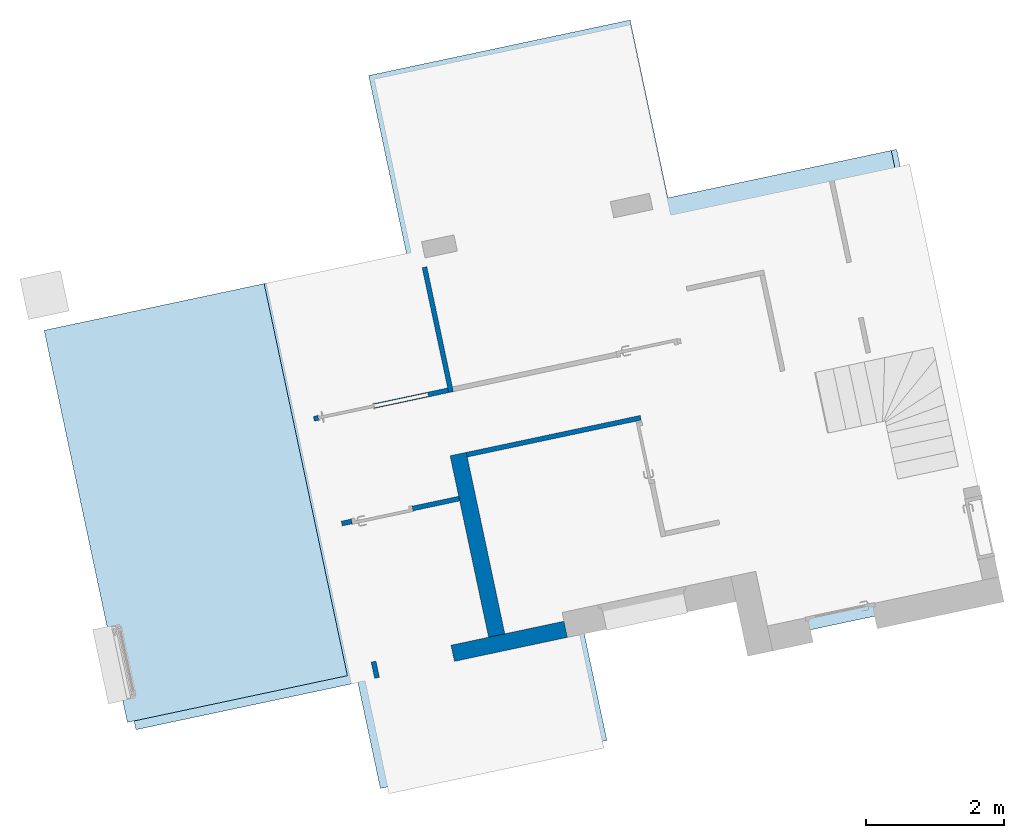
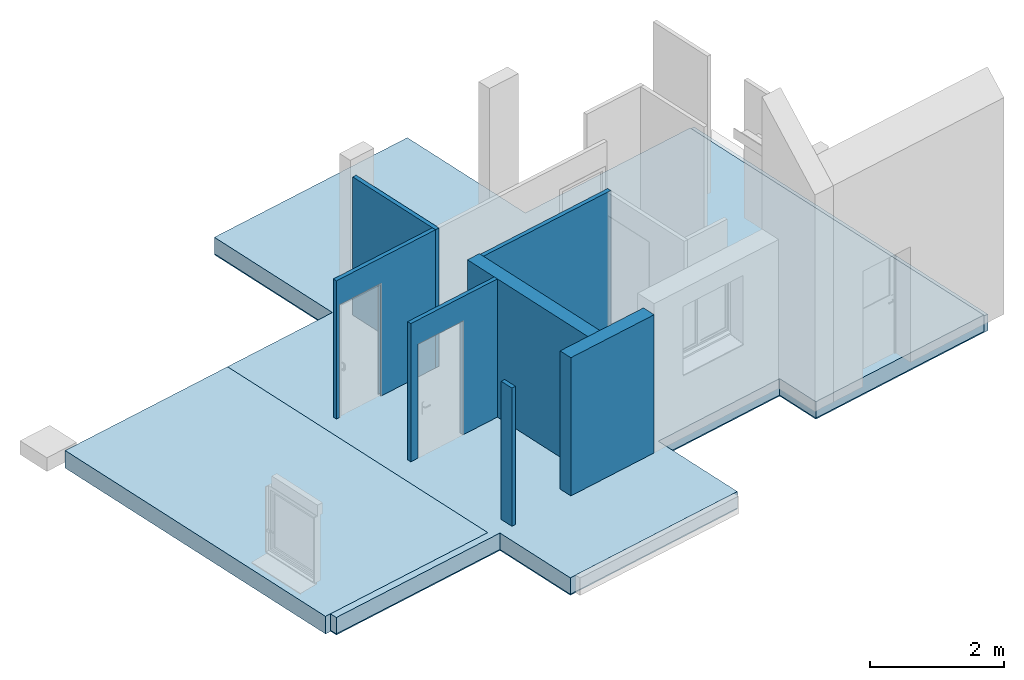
# One storey, part 1 of 11: 7 walls, 3 slabs, 4 openings.
"""IFC2X3 building model written with IfcOpenShell, lengths in centimetres."""

import ifcopenshell
import ifcopenshell.guid

model = None  # the IFC model being written
_history = None  # IfcOwnerHistory: only IFC2X3 demands one
_inside = {}  # id of a spatial element -> (the spatial element, [elements in it])
_under = {}  # id of a project, library or spatial element -> (it, [spatial elements below it])
_declared = {}  # id of a project -> (the project, [libraries it declares])
_typed = {}  # id of a type object -> (the type object, [elements of that type])
_made_of = {}  # id of a material, layer set ... -> (it, [elements and type objects made of it])


def new_model(schema):
    """Start an empty IFC model of exactly this schema.

    Asked for "IFC4X3", IfcOpenShell would pick the latest addendum, in which some entities
    have other attributes; the version numbers below select the first issue.
    IFC2X3 requires an IfcOwnerHistory on every rooted entity: one is made here for all.
    """
    global model, _history
    if schema == "IFC4X3":
        model = ifcopenshell.file(schema_version=(4, 3, 0, 0))
    else:
        model = ifcopenshell.file(schema=schema)
    _inside.clear()
    _under.clear()
    _declared.clear()
    _typed.clear()
    _made_of.clear()
    _history = None
    if model.schema == "IFC2X3":
        org = make("IfcOrganization", Name="unknown")
        user = make(
            "IfcPersonAndOrganization",
            ThePerson=make("IfcPerson", FamilyName="unknown"),
            TheOrganization=org,
        )
        app = make(
            "IfcApplication",
            ApplicationDeveloper=org,
            Version="unknown",
            ApplicationFullName="unknown",
            ApplicationIdentifier="unknown",
        )
        _history = make(
            "IfcOwnerHistory",
            OwningUser=user,
            OwningApplication=app,
            ChangeAction="ADDED",
            CreationDate=0,
        )
    return model


def make(cls, **values):
    """One entity of the class cls with the attributes given. An attribute that is None is left unset."""
    return model.create_entity(
        cls, **{name: value for name, value in values.items() if value is not None}
    )


def entity(cls, *values):
    """Any entity or typed value of the class cls, its attributes in the order of the schema. None: left unset."""
    e = model.create_entity(cls)
    for i, value in enumerate(values):
        if value is not None:
            e[i] = value
    return e


def rooted(cls, **values):
    """An entity with a GlobalId (a new one), such as an element, a storey or a relation."""
    return make(cls, GlobalId=ifcopenshell.guid.new(), OwnerHistory=_history, **values)


def si_unit(unit_type, name, prefix=None):
    """IfcSIUnit, for example si_unit("LENGTHUNIT", "METRE", prefix="MILLI")."""
    return make("IfcSIUnit", UnitType=unit_type, Prefix=prefix, Name=name)


def converted_unit(unit_type, name, factor, base, dimensions=None, offset=None):
    """IfcConversionBasedUnit, such as the inch: factor (a typed value) times the base unit."""
    return make(
        "IfcConversionBasedUnit"
        if offset is None
        else "IfcConversionBasedUnitWithOffset",
        ConversionOffset=offset,
        Dimensions=None
        if dimensions is None
        else entity("IfcDimensionalExponents", *dimensions),
        UnitType=unit_type,
        Name=name,
        ConversionFactor=make(
            "IfcMeasureWithUnit", ValueComponent=factor, UnitComponent=base
        ),
    )


def derived_unit(unit_type, elements):
    """IfcDerivedUnit: a product of units, each with its exponent."""
    return make(
        "IfcDerivedUnit",
        Elements=[
            make("IfcDerivedUnitElement", Unit=unit, Exponent=power)
            for unit, power in elements
        ],
        UnitType=unit_type,
    )


def assignment(units):
    """IfcUnitAssignment: the units of a project."""
    return None if units is None else make("IfcUnitAssignment", Units=units)


def point(xyz):
    """IfcCartesianPoint."""
    return None if xyz is None else make("IfcCartesianPoint", Coordinates=xyz)


def direction(xyz):
    """IfcDirection."""
    return None if xyz is None else make("IfcDirection", DirectionRatios=xyz)


def frame(location, z_axis=None, x_axis=None):
    """IfcAxis2Placement3D, a coordinate frame: its origin and axes. An axis left out is left unset."""
    return make(
        "IfcAxis2Placement3D",
        Location=point(location),
        Axis=direction(z_axis),
        RefDirection=direction(x_axis),
    )


def frame_2d(location, x_axis=None):
    """IfcAxis2Placement2D, a coordinate frame in the plane: its origin and x axis."""
    return make(
        "IfcAxis2Placement2D", Location=point(location), RefDirection=direction(x_axis)
    )


def origin():
    """The frame at (0, 0, 0) with its axes left unset."""
    return frame((0.0, 0.0, 0.0))


def place(relative_to, where):
    """IfcLocalPlacement: puts the frame where relative to a parent placement (None: the world)."""
    return make(
        "IfcLocalPlacement", PlacementRelTo=relative_to, RelativePlacement=where
    )


def context(
    kind, dimensions, precision=None, world=None, true_north=None, identifier=None
):
    """IfcGeometricRepresentationContext, for example the 3D "Model" context."""
    return make(
        "IfcGeometricRepresentationContext",
        ContextIdentifier=identifier,
        ContextType=kind,
        CoordinateSpaceDimension=dimensions,
        Precision=precision,
        WorldCoordinateSystem=world,
        TrueNorth=true_north,
    )


def subcontext(parent, identifier, kind, view, scale=None):
    """IfcGeometricRepresentationSubContext, for example "Body" below "Model"."""
    return make(
        "IfcGeometricRepresentationSubContext",
        ContextIdentifier=identifier,
        ContextType=kind,
        ParentContext=parent,
        TargetScale=scale,
        TargetView=view,
    )


def project(units=None, contexts=None):
    """IfcProject with its units and contexts."""
    return rooted(
        "IfcProject",
        Name="project",
        RepresentationContexts=contexts,
        UnitsInContext=assignment(units),
    )


def spatial(cls, under=None, at=None, **own):
    """A site, building, storey or space (cls), placed at a placement, below another one or the project."""
    s = rooted(cls, ObjectPlacement=at, **own)
    if under is not None:
        _under.setdefault(under.id(), (under, []))[1].append(s)
    return s


def polyline(points):
    """IfcPolyline through the points."""
    return make("IfcPolyline", Points=[point(p) for p in points])


def profile(cls, at=None, kind="AREA", **sizes):
    """A parametric profile (cls). Its sizes go by their IFC names, for example OverallWidth=200.0."""
    return make(cls, ProfileType=kind, Position=at, **sizes)


def rectangle(**sizes):
    """IfcRectangleProfileDef."""
    return profile("IfcRectangleProfileDef", **sizes)


def outline(outer, holes=None, kind="AREA"):
    """IfcArbitraryClosedProfileDef: a profile drawn as a closed curve; with holes, ...WithVoids."""
    if holes is None:
        return make("IfcArbitraryClosedProfileDef", ProfileType=kind, OuterCurve=outer)
    return make(
        "IfcArbitraryProfileDefWithVoids",
        ProfileType=kind,
        OuterCurve=outer,
        InnerCurves=holes,
    )


def extrude(swept, where, along, depth):
    """IfcExtrudedAreaSolid: the profile swept, set in the frame where, extruded along a direction by depth."""
    return make(
        "IfcExtrudedAreaSolid",
        SweptArea=swept,
        Position=where,
        ExtrudedDirection=direction(along),
        Depth=depth,
    )


def clip(a, b, op="DIFFERENCE"):
    """IfcBooleanClippingResult: the solid a cut by the half space b."""
    return make(
        "IfcBooleanClippingResult", Operator=op, FirstOperand=a, SecondOperand=b
    )


def bounded_halfspace(plane, agree, where, boundary):
    """IfcPolygonalBoundedHalfSpace: a half space limited to a polygon's prism."""
    return make(
        "IfcPolygonalBoundedHalfSpace",
        BaseSurface=make("IfcPlane", Position=plane),
        AgreementFlag=agree,
        Position=where,
        PolygonalBoundary=boundary,
    )


def faces_of(points, faces, orient=None, outer=None):
    """IfcFace entities. A face is a list of loops; a loop is a list of indices into points, from 0.

    orient and outer hold one flag for each loop. By default every Orientation is true, the
    first loop of a face is its IfcFaceOuterBound and the others are IfcFaceBound.
    """
    made = []
    for i, loops in enumerate(faces):
        bounds = []
        for j, loop in enumerate(loops):
            is_outer = j == 0 if outer is None else outer[i][j]
            bounds.append(
                make(
                    "IfcFaceOuterBound" if is_outer else "IfcFaceBound",
                    Bound=make("IfcPolyLoop", Polygon=[points[k] for k in loop]),
                    Orientation=True if orient is None else orient[i][j],
                )
            )
        made.append(make("IfcFace", Bounds=bounds))
    return made


def faceted_brep(points, faces, orient=None, outer=None, voids=None):
    """IfcFacetedBrep: a solid bounded by flat faces; with voids (closed shells), ...WithVoids."""
    shared = [point(p) for p in points]
    hull = make("IfcClosedShell", CfsFaces=faces_of(shared, faces, orient, outer))
    if voids is None:
        return make("IfcFacetedBrep", Outer=hull)
    return make(
        "IfcFacetedBrepWithVoids",
        Outer=hull,
        Voids=[
            make(cls, CfsFaces=faces_of(shared, fs, o, b)) for cls, fs, o, b in voids
        ],
    )


def shape(context_of_items, identifier, shape_type, items):
    """IfcShapeRepresentation: the items that make up one representation, for example the "Body"."""
    return make(
        "IfcShapeRepresentation",
        ContextOfItems=context_of_items,
        RepresentationIdentifier=identifier,
        RepresentationType=shape_type,
        Items=items,
    )


def material(Name=None, Category=None):
    """IfcMaterial."""
    return make("IfcMaterial", Name=Name, Category=Category)


def layer(
    of_material, thickness, ventilated=None, Name=None, Category=None, Priority=None
):
    """IfcMaterialLayer: one layer of a wall or slab, of a material (None: an air gap)."""
    return make(
        "IfcMaterialLayer",
        Material=of_material,
        LayerThickness=thickness,
        IsVentilated=ventilated,
        Name=Name,
        Category=Category,
        Priority=Priority,
    )


def layer_set(layers, Name=None):
    """IfcMaterialLayerSet."""
    return make("IfcMaterialLayerSet", MaterialLayers=layers, LayerSetName=Name)


def layer_usage(for_layer_set, set_direction, sense, offset, extent=None):
    """IfcMaterialLayerSetUsage: how a layer set lies in its element."""
    return make(
        "IfcMaterialLayerSetUsage",
        ForLayerSet=for_layer_set,
        LayerSetDirection=set_direction,
        DirectionSense=sense,
        OffsetFromReferenceLine=offset,
        ReferenceExtent=extent,
    )


def made_of(thing, what):
    """Note that an element or type object is made of a material, layer set ...; save() writes the relation."""
    if what is not None:
        _made_of.setdefault(what.id(), (what, []))[1].append(thing)
    return thing


def type_object(cls, material=None, **own):
    """A type object (cls), such as IfcWallType, which elements share."""
    return made_of(rooted(cls, **own), material)


def element(
    cls,
    number,
    at=None,
    inside=None,
    cuts=None,
    type_object=None,
    material=None,
    context=None,
    identifier="Body",
    shape_type=None,
    held_by="IfcProductDefinitionShape",
    body=None,
    shapes=None,
    **own,
):
    """One element of the class cls, such as IfcWall. Its Tag is "e" and its number.

    at: its placement. inside: the storey or other place that contains it. cuts: it is an
    opening in that element (IfcRelVoidsElement). A single representation is given by context,
    identifier, shape_type and body (its items); several are given by shapes. held_by: the class
    of the entity that holds the representations. save() writes the other relations.
    """
    e = rooted(cls, Tag="e%d" % number, ObjectPlacement=at, **own)
    if body is not None:
        shapes = [shape(context, identifier, shape_type, body)]
    if shapes is not None:
        e.Representation = make(held_by, Representations=shapes)
    if inside is not None:
        _inside.setdefault(inside.id(), (inside, []))[1].append(e)
    if cuts is not None:
        rooted(
            "IfcRelVoidsElement", RelatingBuildingElement=cuts, RelatedOpeningElement=e
        )
    if type_object is not None:
        _typed.setdefault(type_object.id(), (type_object, []))[1].append(e)
    return made_of(e, material)


def aggregate(whole, parts):
    """IfcRelAggregates: a whole, such as a stair, and the parts it consists of."""
    return rooted("IfcRelAggregates", RelatingObject=whole, RelatedObjects=parts)


def save(model, path):
    """Write the relations noted so far, then the file.

    IfcRelAggregates (storeys below a building ...), IfcRelContainedInSpatialStructure (elements
    in a storey), IfcRelDefinesByType, IfcRelAssociatesMaterial and IfcRelDeclares: one each for
    every whole, place, type object, material and project.
    """
    for whole, parts in _under.values():
        aggregate(whole, parts)
    for where, things in _inside.values():
        rooted(
            "IfcRelContainedInSpatialStructure",
            RelatedElements=things,
            RelatingStructure=where,
        )
    for kind, things in _typed.values():
        rooted("IfcRelDefinesByType", RelatedObjects=things, RelatingType=kind)
    for what, things in _made_of.values():
        rooted("IfcRelAssociatesMaterial", RelatedObjects=things, RelatingMaterial=what)
    for by, libraries in _declared.values():
        rooted("IfcRelDeclares", RelatingContext=by, RelatedDefinitions=libraries)
    model.write(path)


model = new_model("IFC2X3")

# Units and contexts
model_context = context("Model", 3, precision=0.001, world=origin(), true_north=direction((6.12303176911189e-17, 1.0)))
body_context = subcontext(model_context, "Body", "Model", "MODEL_VIEW")
ifc_project = project(units=[si_unit("LENGTHUNIT", "METRE", prefix="CENTI"), si_unit("AREAUNIT", "SQUARE_METRE"), si_unit("VOLUMEUNIT", "CUBIC_METRE"), converted_unit("PLANEANGLEUNIT", "DEGREE", entity("IfcRatioMeasure", 0.0174532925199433), si_unit("PLANEANGLEUNIT", "RADIAN"), dimensions=[0, 0, 0, 0, 0, 0, 0]), si_unit("MASSUNIT", "GRAM", prefix="KILO"), derived_unit("MASSDENSITYUNIT", [(si_unit("MASSUNIT", "GRAM", prefix="KILO"), 1), (si_unit("LENGTHUNIT", "METRE"), -3)]), derived_unit("IONCONCENTRATIONUNIT", [(si_unit("MASSUNIT", "GRAM", prefix="KILO"), 1), (si_unit("LENGTHUNIT", "METRE"), -3)]), derived_unit("MOMENTOFINERTIAUNIT", [(si_unit("LENGTHUNIT", "METRE"), 4)]), si_unit("TIMEUNIT", "SECOND"), si_unit("FREQUENCYUNIT", "HERTZ"), si_unit("THERMODYNAMICTEMPERATUREUNIT", "DEGREE_CELSIUS"), derived_unit("THERMALTRANSMITTANCEUNIT", [(si_unit("MASSUNIT", "GRAM", prefix="KILO"), 1), (si_unit("THERMODYNAMICTEMPERATUREUNIT", "KELVIN"), -1), (si_unit("TIMEUNIT", "SECOND"), -3)]), derived_unit("THERMALCONDUCTANCEUNIT", [(si_unit("MASSUNIT", "GRAM", prefix="KILO"), 1), (si_unit("THERMODYNAMICTEMPERATUREUNIT", "KELVIN"), -1), (si_unit("TIMEUNIT", "SECOND"), -3), (si_unit("LENGTHUNIT", "METRE"), 1)]), derived_unit("VOLUMETRICFLOWRATEUNIT", [(si_unit("LENGTHUNIT", "METRE"), 3), (si_unit("TIMEUNIT", "SECOND"), -1)]), derived_unit("MASSFLOWRATEUNIT", [(si_unit("MASSUNIT", "GRAM", prefix="KILO"), 1), (si_unit("TIMEUNIT", "SECOND"), -1)]), derived_unit("ROTATIONALFREQUENCYUNIT", [(si_unit("TIMEUNIT", "SECOND"), -1)]), si_unit("ELECTRICCURRENTUNIT", "AMPERE"), si_unit("ELECTRICVOLTAGEUNIT", "VOLT"), si_unit("POWERUNIT", "WATT"), si_unit("FORCEUNIT", "NEWTON", prefix="KILO"), si_unit("ILLUMINANCEUNIT", "LUX"), si_unit("LUMINOUSFLUXUNIT", "LUMEN"), si_unit("LUMINOUSINTENSITYUNIT", "CANDELA"), derived_unit("USERDEFINED", [(si_unit("MASSUNIT", "GRAM", prefix="KILO"), -1), (si_unit("LENGTHUNIT", "METRE"), -2), (si_unit("TIMEUNIT", "SECOND"), 3), (si_unit("LUMINOUSFLUXUNIT", "LUMEN"), 1)]), derived_unit("USERDEFINED", [(si_unit("MASSUNIT", "GRAM", prefix="KILO"), 1), (si_unit("TIMEUNIT", "SECOND"), -3), (si_unit("LENGTHUNIT", "METRE"), 3), (si_unit("ELECTRICCURRENTUNIT", "AMPERE"), -2)]), derived_unit("SOUNDPOWERUNIT", [(si_unit("MASSUNIT", "GRAM", prefix="KILO"), 1), (si_unit("TIMEUNIT", "SECOND"), -3), (si_unit("LENGTHUNIT", "METRE"), 2)]), derived_unit("SOUNDPRESSUREUNIT", [(si_unit("MASSUNIT", "GRAM", prefix="KILO"), 1), (si_unit("LENGTHUNIT", "METRE"), -1), (si_unit("TIMEUNIT", "SECOND"), -2)]), derived_unit("LINEARVELOCITYUNIT", [(si_unit("LENGTHUNIT", "METRE"), 1), (si_unit("TIMEUNIT", "SECOND"), -1)]), si_unit("PRESSUREUNIT", "PASCAL"), derived_unit("USERDEFINED", [(si_unit("MASSUNIT", "GRAM", prefix="KILO"), 1), (si_unit("LENGTHUNIT", "METRE"), -2), (si_unit("TIMEUNIT", "SECOND"), -2)]), derived_unit("LINEARFORCEUNIT", [(si_unit("MASSUNIT", "GRAM", prefix="KILO"), 1), (si_unit("TIMEUNIT", "SECOND"), -2)]), derived_unit("PLANARFORCEUNIT", [(si_unit("MASSUNIT", "GRAM", prefix="KILO"), 1), (si_unit("LENGTHUNIT", "METRE"), -1), (si_unit("TIMEUNIT", "SECOND"), -2)]), derived_unit("SPECIFICHEATCAPACITYUNIT", [(si_unit("THERMODYNAMICTEMPERATUREUNIT", "KELVIN"), -1), (si_unit("LENGTHUNIT", "METRE"), 2), (si_unit("TIMEUNIT", "SECOND"), -2)]), derived_unit("HEATINGVALUEUNIT", [(si_unit("LENGTHUNIT", "METRE"), 2), (si_unit("TIMEUNIT", "SECOND"), -2)]), derived_unit("VAPORPERMEABILITYUNIT", [(si_unit("LENGTHUNIT", "METRE"), -1), (si_unit("TIMEUNIT", "SECOND"), 1)]), derived_unit("DYNAMICVISCOSITYUNIT", [(si_unit("MASSUNIT", "GRAM", prefix="KILO"), 1), (si_unit("TIMEUNIT", "SECOND"), -1), (si_unit("LENGTHUNIT", "METRE"), -1)]), derived_unit("THERMALEXPANSIONCOEFFICIENTUNIT", [(si_unit("THERMODYNAMICTEMPERATUREUNIT", "KELVIN"), -1)]), derived_unit("MODULUSOFELASTICITYUNIT", [(si_unit("MASSUNIT", "GRAM", prefix="KILO"), 1), (si_unit("LENGTHUNIT", "METRE"), -1), (si_unit("TIMEUNIT", "SECOND"), -2)]), derived_unit("ISOTHERMALMOISTURECAPACITYUNIT", [(si_unit("LENGTHUNIT", "METRE"), 3), (si_unit("MASSUNIT", "GRAM", prefix="KILO"), -1)]), derived_unit("MOISTUREDIFFUSIVITYUNIT", [(si_unit("TIMEUNIT", "SECOND"), -1), (si_unit("LENGTHUNIT", "METRE"), 2)])], contexts=[model_context])

# Site, building, storey
site_placement = place(None, frame((14083.8920177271, -6853.25409548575, 6900.0), z_axis=(0.0, 0.0, 1.0), x_axis=(0.978188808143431, 0.207717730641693, 0.0)))
site = spatial("IfcSite", under=ifc_project, at=site_placement, Name="Surface", CompositionType="ELEMENT")
building_placement = place(site_placement, origin())
building = spatial("IfcBuilding", under=site, at=building_placement, CompositionType="ELEMENT")
storey_placement = place(building_placement, frame((0.0, 0.0, 17.0)))
storey = spatial("IfcBuildingStorey", under=building, at=storey_placement, Name="Rez de chaussée", CompositionType="ELEMENT", Elevation=17.0000000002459)

# Slabs
ifc_material_1 = material(Name="Dalle, carrelage 15 x 15")
ifc_layer_1 = layer(ifc_material_1, 2.0)
ifc_material_2 = material(Name="__ ISOLANT (sous dalle)")
ifc_layer_2 = layer(ifc_material_2, 8.0)
ifc_material_3 = material(Name="<Unnamed>")
ifc_layer_3 = layer(ifc_material_3, 2.0)
ifc_material_4 = material(Name="Béton, précoulé")
ifc_layer_4 = layer(ifc_material_4, 20.0)
ifc_layer_set_1 = layer_set([ifc_layer_1, ifc_layer_2, ifc_layer_3, ifc_layer_4], Name="Sol:*BETON 32 (20 + Revêtement sur chape)")
ifc_layer_usage_1 = layer_usage(ifc_layer_set_1, "AXIS3", "POSITIVE", 0.0)
slab_type_1 = type_object("IfcSlabType", Name="Sol:*BETON 32 (20 + Revêtement sur chape)", PredefinedType="FLOOR", material=ifc_layer_set_1)
slab_1_placement = place(storey_placement, origin())
element("IfcSlab", 1, at=slab_1_placement, inside=storey, type_object=slab_type_1, material=ifc_layer_usage_1, Name="Sol:*BETON 32 (20 + Revêtement sur chape)", ObjectType="Sol:*BETON 32 (20 + Revêtement sur chape)", PredefinedType="FLOOR", context=body_context, shape_type="SweptSolid", body=[
    extrude(rectangle(XDim=581.266666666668, YDim=326.199999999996, at=frame_2d((8.81072992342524e-13, 4.2632564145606e-13), x_axis=(1.0, 0.0))), frame((-7900.8551432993, 15148.3058112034, 0.0), z_axis=(0.0, 0.0, -1.0), x_axis=(0.0, 1.0, 0.0)), (0.0, 0.0, 1.0), 32.0),
])
ifc_layer_5 = layer(ifc_material_3, 30.0)
ifc_layer_set_2 = layer_set([ifc_layer_5], Name="Terre-plein:Terre-plein Béton - 300 mm")
ifc_layer_usage_2 = layer_usage(ifc_layer_set_2, "AXIS3", "POSITIVE", 0.0)
slab_type_2 = type_object("IfcSlabType", Name="Terre-plein:Terre-plein Béton - 300 mm", PredefinedType="FLOOR", material=ifc_layer_set_2)
slab_2_placement = place(storey_placement, origin())
element("IfcSlab", 2, at=slab_2_placement, inside=storey, type_object=slab_type_2, material=ifc_layer_usage_2, Name="Terre-plein:Terre-plein Béton - 300 mm", ObjectType="Terre-plein:Terre-plein Béton - 300 mm", PredefinedType="FLOOR", context=body_context, shape_type="SweptSolid", body=[
    extrude(outline(polyline([(-325.432600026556, -590.21201998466), (330.334066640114, -590.21201998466), (330.334066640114, -259.21201998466), (594.062266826, -259.21201998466), (594.062266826, 128.629984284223), (330.334066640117, 128.629984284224), (330.334066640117, 655.78798001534), (-263.932600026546, 655.78798001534), (-263.932600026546, 326.78798001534), (-420.932600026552, 326.78798001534), (-420.932600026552, -9.06988436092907), (-244.432600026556, -9.06988436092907), (-244.432600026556, -252.712019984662), (-325.432600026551, -252.712019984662), (-325.432600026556, -590.21201998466)])), frame((-7398.16716328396, 15108.6050778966, -30.0), z_axis=(0.0, 0.0, 1.0), x_axis=(0.0, 1.0, 0.0)), (0.0, 0.0, 1.0), 30.0),
])
slab_3_placement = place(storey_placement, origin())
element("IfcSlab", 3, at=slab_3_placement, inside=storey, type_object=slab_type_2, material=ifc_layer_usage_2, Name="Terre-plein:Terre-plein Béton - 300 mm", ObjectType="Terre-plein:Terre-plein Béton - 300 mm", PredefinedType="FLOOR", context=body_context, shape_type="SweptSolid", body=[
    extrude(outline(polyline([(330.334066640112, -258.069162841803), (594.062266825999, -258.069162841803), (594.062266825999, 129.77284142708), (330.334066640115, 129.772841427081), (330.334066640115, 656.930837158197), (-263.932600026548, 656.930837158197), (-263.932600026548, 327.930837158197), (-420.932600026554, 327.930837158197), (-420.932600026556, -7.92702721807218), (-244.432600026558, -7.92702721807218), (-244.432600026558, -251.569162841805), (-325.432600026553, -251.569162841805), (-325.432600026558, -597.069162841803), (330.334066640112, -597.069162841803), (330.334066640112, -258.069162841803)])), frame((-7397.02430614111, 15108.6050778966, -32.0), z_axis=(0.0, 0.0, 1.0), x_axis=(0.0, 1.0, 0.0)), (0.0, 0.0, 1.0), 30.0),
])

# Wall, opening
ifc_material_5 = material(Name="__ ENDUIT_Blanc")
ifc_layer_6 = layer(ifc_material_5, 2.0)
ifc_layer_7 = layer(ifc_material_4, 20.0)
ifc_layer_8 = layer(ifc_material_5, 2.0)
ifc_layer_set_3 = layer_set([ifc_layer_6, ifc_layer_7, ifc_layer_8], Name="Mur de base:*BRIQUE 24 (20 + INT 2 + EXT 2) (enduit 2 faces)")
ifc_layer_usage_3 = layer_usage(ifc_layer_set_3, "AXIS2", "NEGATIVE", 12.0)
wall_type_1 = type_object("IfcWallType", Name="Mur de base:*BRIQUE 24 (20 + INT 2 + EXT 2) (enduit 2 faces)", PredefinedType="STANDARD", material=ifc_layer_set_3)
wall_1_placement = place(storey_placement, frame((-7513.79714756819, 14869.6724778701, 0.0), z_axis=(0.0, 0.0, 1.0), x_axis=(0.0, 1.0, 0.0)))
wall_1 = element("IfcWallStandardCase", 4, at=wall_1_placement, inside=storey, type_object=wall_type_1, material=ifc_layer_usage_3, Name="Mur de base:*BRIQUE 24 (20 + INT 2 + EXT 2) (enduit 2 faces)", ObjectType="Mur de base:*BRIQUE 24 (20 + INT 2 + EXT 2) (enduit 2 faces)", context=body_context, shape_type="SweptSolid", body=[
    extrude(rectangle(XDim=269.000000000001, YDim=23.9999999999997, at=frame_2d((134.500000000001, -1.86517468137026e-14), x_axis=(-1.0, 0.0))), origin(), (0.0, 0.0, 1.0), 251.999999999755),
])
opening_1_placement = place(wall_1_placement, origin())
element("IfcOpeningElement", 5, at=opening_1_placement, cuts=wall_1, Name="Mur de base:*BRIQUE 24 (20 + INT 2 + EXT 2) (enduit 2 faces)", ObjectType="Opening", context=body_context, shape_type="SweptSolid", body=[
    extrude(rectangle(XDim=207.5, YDim=89.9999999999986, at=frame_2d((8.66862137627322e-13, 7.105427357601e-15), x_axis=(0.0, 1.0))), frame((314.0, -140.4, 103.75), z_axis=(0.0, 1.0, 0.0), x_axis=(-1.0, 0.0, 0.0)), (0.0, 0.0, 1.0), 304.8),
])

# Walls
wall_2_placement = place(storey_placement, frame((-7414.09727892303, 14857.6724778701, 0.0), z_axis=(0.0, 0.0, 1.0), x_axis=(-1.0, 0.0, 0.0)))
element("IfcWallStandardCase", 6, at=wall_2_placement, inside=storey, type_object=wall_type_1, material=ifc_layer_usage_3, Name="Mur de base:*BRIQUE 24 (20 + INT 2 + EXT 2) (enduit 2 faces)", ObjectType="Mur de base:*BRIQUE 24 (20 + INT 2 + EXT 2) (enduit 2 faces)", context=body_context, shape_type="Clipping", body=[
    clip(extrude(rectangle(XDim=167.5, YDim=24.0000000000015, at=frame_2d((83.75, 2.70006239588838e-13), x_axis=(-1.0, 0.0))), origin(), (0.0, 0.0, 1.0), 251.999999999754), bounded_halfspace(frame((0.0, -12.0, 252.0), z_axis=(0.0, 0.0, -1.0), x_axis=(0.0, -1.0, 0.0)), True, frame((0.0, -12.0, 252.0), z_axis=(0.0, 0.0, -1.0), x_axis=(0.0, -1.0, 0.0)), polyline([(0.0, 0.0), (-24.0, 0.0), (-24.0, -167.5), (0.0, -167.5), (0.0, -111.699868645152), (0.0, -87.6998686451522), (0.0, 0.0)]))),
])
wall_3_placement = place(storey_placement, frame((-7692.79714756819, 14857.6724778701, 0.0), z_axis=(0.0, 0.0, 1.0), x_axis=(-1.0, 0.0, 0.0)))
element("IfcWallStandardCase", 7, at=wall_3_placement, inside=storey, type_object=wall_type_1, material=ifc_layer_usage_3, Name="Mur de base:*BRIQUE 24 (20 + INT 2 + EXT 2) (enduit 2 faces)", ObjectType="Mur de base:*BRIQUE 24 (20 + INT 2 + EXT 2) (enduit 2 faces)", context=body_context, shape_type="Clipping", body=[
    clip(extrude(rectangle(XDim=7.15799573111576, YDim=24.0000000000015, at=frame_2d((3.57899786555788, 1.15463194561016e-14), x_axis=(-1.0, 0.0))), origin(), (0.0, 0.0, 1.0), 251.999999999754), bounded_halfspace(frame((0.0, -12.0, 252.0), z_axis=(0.0, 0.0, -1.0), x_axis=(0.0, -1.0, 0.0)), True, frame((0.0, -12.0, 252.0), z_axis=(0.0, 0.0, -1.0), x_axis=(0.0, -1.0, 0.0)), polyline([(0.0, 0.0), (-24.0, 0.0), (-24.0, -7.15799573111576), (0.0, -7.15799573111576), (0.0, 0.0)]))),
])

# Wall, opening
ifc_material_6 = material(Name="__ BA 13")
ifc_layer_9 = layer(ifc_material_6, 7.0)
ifc_layer_set_4 = layer_set([ifc_layer_9], Name="Mur de base:*Cloison 72/48 cm")
ifc_layer_usage_4 = layer_usage(ifc_layer_set_4, "AXIS2", "NEGATIVE", 3.5)
wall_type_2 = type_object("IfcWallType", Name="Mur de base:*Cloison 72/48 cm", PredefinedType="STANDARD", material=ifc_layer_set_4)
wall_4_placement = place(storey_placement, frame((-7243.9551432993, 15135.1724778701, 0.0), z_axis=(0.0, 0.0, 1.0), x_axis=(-1.0, 0.0, 0.0)))
wall_4 = element("IfcWallStandardCase", 8, at=wall_4_placement, inside=storey, type_object=wall_type_2, material=ifc_layer_usage_4, Name="Mur de base:*Cloison 72/48 cm", ObjectType="Mur de base:*Cloison 72/48 cm", context=body_context, shape_type="SweptSolid", body=[
    extrude(rectangle(XDim=257.842004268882, YDim=7.00000000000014, at=frame_2d((128.921002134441, -4.22550883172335e-13), x_axis=(-1.0, 0.0))), origin(), (0.0, 0.0, 1.0), 250.0),
])
opening_2_placement = place(wall_4_placement, origin())
element("IfcOpeningElement", 9, at=opening_2_placement, cuts=wall_4, Name="Mur de base:*Cloison 72/48 cm", ObjectType="Opening", context=body_context, shape_type="SweptSolid", body=[
    extrude(rectangle(XDim=207.5, YDim=23.9999999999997, at=frame_2d((8.66862137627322e-13, 0.0), x_axis=(0.0, 1.0))), frame((269.842004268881, -93.4999999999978, 103.75), z_axis=(0.0, 1.0, 0.0), x_axis=(1.0, 0.0, 0.0)), (0.0, 0.0, 1.0), 89.9999999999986),
])

# Wall
wall_5_placement = place(storey_placement, frame((-7505.29714756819, 15413.9391445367, 0.0), z_axis=(0.0, 0.0, 1.0), x_axis=(0.0, -1.0, 0.0)))
element("IfcWallStandardCase", 10, at=wall_5_placement, inside=storey, type_object=wall_type_2, material=ifc_layer_usage_4, Name="Mur de base:*Cloison 72/48 cm", ObjectType="Mur de base:*Cloison 72/48 cm", context=body_context, shape_type="SweptSolid", body=[
    extrude(rectangle(XDim=185.271799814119, YDim=7.00000000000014, at=frame_2d((92.6358999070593, 0.0), x_axis=(-1.0, 0.0))), origin(), (0.0, 0.0, 1.0), 251.999999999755),
])

# Wall, opening
wall_6_placement = place(storey_placement, frame((-7525.79714756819, 15075.1673447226, 0.0), z_axis=(0.0, 0.0, 1.0), x_axis=(-1.0, 0.0, 0.0)))
wall_6 = element("IfcWallStandardCase", 11, at=wall_6_placement, inside=storey, type_object=wall_type_2, material=ifc_layer_usage_4, Name="Mur de base:*Cloison 72/48 cm", ObjectType="Mur de base:*Cloison 72/48 cm", context=body_context, shape_type="SweptSolid", body=[
    extrude(rectangle(XDim=174.157995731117, YDim=7.00000000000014, at=frame_2d((87.0789978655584, -8.66418048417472e-13), x_axis=(1.0, 0.0))), origin(), (0.0, 0.0, 1.0), 251.999999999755),
])
opening_3_placement = place(wall_6_placement, frame((69.1579957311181, -3.5, 0.0)))
element("IfcOpeningElement", 12, at=opening_3_placement, cuts=wall_6, Name="*Porte_alveolaire:Pp 83 x 204:1", ObjectType="Opening", context=body_context, shape_type="SweptSolid", body=[
    extrude(rectangle(XDim=207.5, YDim=89.9999999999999, at=frame_2d((103.75, 45.0000000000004), x_axis=(1.0, 0.0))), frame((0.0, 0.0, 0.0), z_axis=(0.0, 1.0, 0.0), x_axis=(0.0, 0.0, 1.0)), (0.0, 0.0, 1.0), 7.0),
])

wall_7_placement = place(storey_placement, frame((-7508.79714756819, 15232.1673447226, 0.0), z_axis=(0.0, 0.0, 1.0), x_axis=(-1.0, 0.0, 0.0)))
wall_7 = element("IfcWallStandardCase", 13, at=wall_7_placement, inside=storey, type_object=wall_type_2, material=ifc_layer_usage_4, Name="Mur de base:*Cloison 72/48 cm", ObjectType="Mur de base:*Cloison 72/48 cm", context=body_context, shape_type="SweptSolid", body=[
    extrude(rectangle(XDim=199.157995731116, YDim=7.00000000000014, at=frame_2d((99.5789978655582, -1.3899992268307e-12), x_axis=(1.0, 0.0))), origin(), (0.0, 0.0, 1.0), 251.999999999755),
])
opening_4_placement = place(wall_7_placement, frame((192.657995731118, 18.5000000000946, 0.0), z_axis=(0.0, 0.0, 1.0), x_axis=(-1.0, 0.0, 0.0)))
element("IfcOpeningElement", 14, at=opening_4_placement, cuts=wall_7, Name="Mur de base:*Cloison 72/48 cm", ObjectType="Opening", context=body_context, shape_type="Brep", body=[
    faceted_brep([(83.0, 37.0, 205.5), (0.0, 37.0, 205.5), (0.0, 0.0, 205.5), (83.0, 0.0, 205.5), (83.0, 16.0, 205.5), (163.0, 16.0, 205.5), (163.0, 21.0, 205.5), (83.0, 21.0, 205.5), (83.0, 37.0, 0.0), (83.0, 21.0, 0.0), (163.0, 21.0, 0.0), (163.0, 16.0, 0.0), (83.0, 16.0, 0.0), (83.0, 0.0, 0.0), (0.0, 0.0, 0.0), (0.0, 37.0, 0.0)], [[[0, 1, 2, 3, 4, 5, 6, 7]], [[8, 9, 10, 11, 12, 13, 14, 15]], [[1, 0, 8, 15]], [[2, 1, 15, 14]], [[3, 2, 14, 13]], [[4, 3, 13, 12]], [[5, 4, 12, 11]], [[6, 5, 11, 10]], [[7, 6, 10, 9]], [[0, 7, 9, 8]]]),
])

save(model, "model.ifc")
